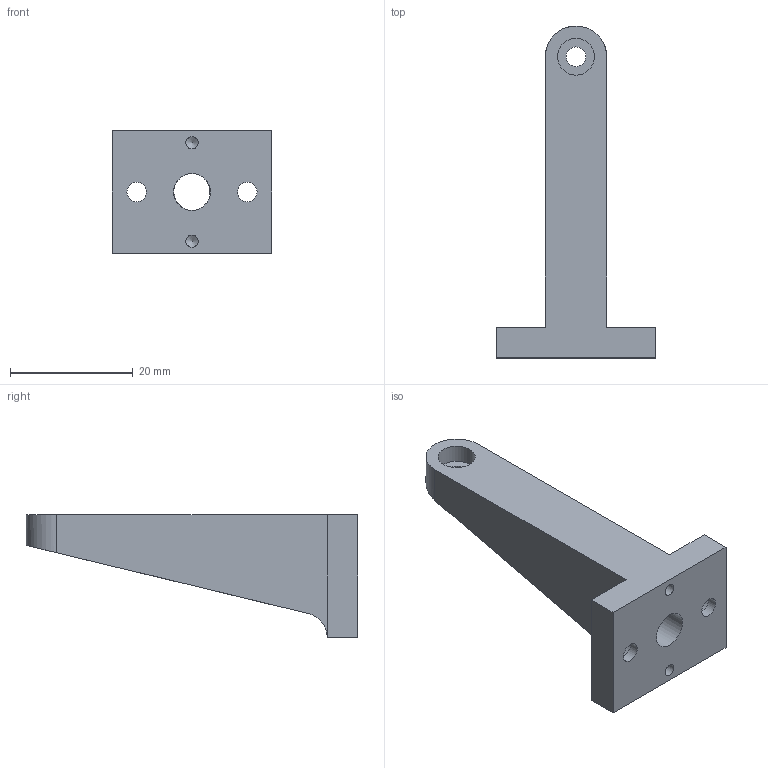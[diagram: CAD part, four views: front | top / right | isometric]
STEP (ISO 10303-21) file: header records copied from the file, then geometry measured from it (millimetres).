
FILE_DESCRIPTION(/* description */ ('Side Arm'),/* implementation_level */ '2;1');
FILE_NAME(/* name */ 'Z:\Werkstatt Server\Projekte\Atlas\Entwicklung u. Konstruktion\Konstruktion\CAD Daten\ITkPixToolV2.0\Baremodule Jig\ITPTv2.01.00.11.stp',/* time_stamp */ '2021-08-06T14:55:41+02:00',/* author */ ('Tim Kanngießer'),/* organization */ (''),/* preprocessor_version */ 'ST-DEVELOPER v18.1',/* originating_system */ 'Autodesk Inventor 2022',/* authorisation */ '');
FILE_SCHEMA (('AUTOMOTIVE_DESIGN { 1 0 10303 214 3 1 1 }'));
Length unit declared in the file: millimetre
Products named in the file (1): ITPTv2.01.00.11
Bounding box: 26 x 54 x 20 mm (x, y, z)
Volume: 6583 mm3; surface area: 4133.4 mm2
Topology: 1 solids, 1 shells, 29 faces, 64 edges, 41 vertices
Faces by surface type: plane 14, cylinder 12, cone 3
Full cylindrical faces by diameter (mm): 2 x2, 3.2 x3, 6 x4, 6.3 x1
Entity records: 859 total; most frequent: DIRECTION 147, CARTESIAN_POINT 133, ORIENTED_EDGE 124, EDGE_CURVE 62, AXIS2_PLACEMENT_3D 55, EDGE_LOOP 43, VERTEX_POINT 41, LINE 37
